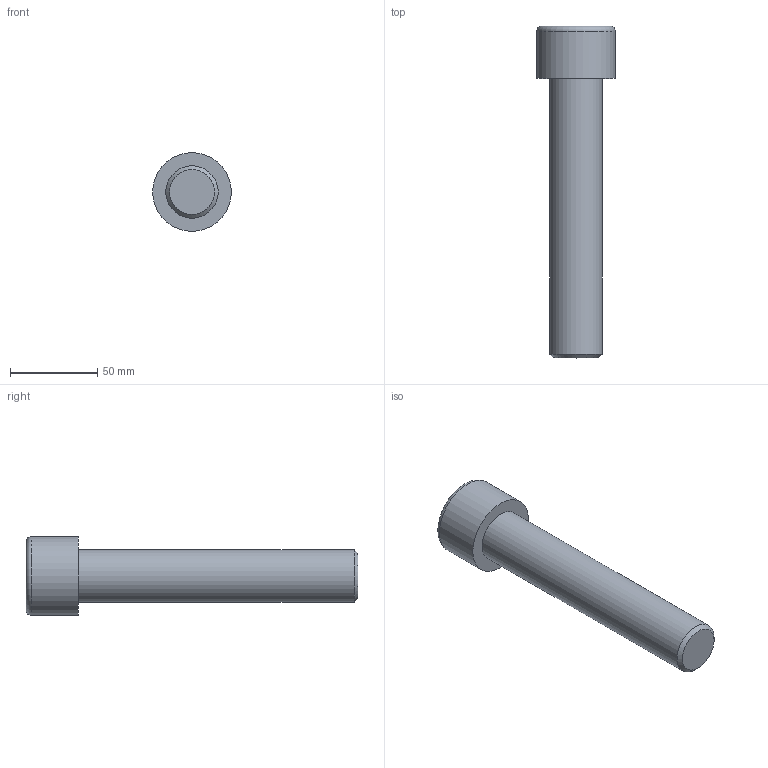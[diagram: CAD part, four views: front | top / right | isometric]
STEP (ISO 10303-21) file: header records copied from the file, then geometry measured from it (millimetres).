
FILE_DESCRIPTION(/* description */ (''),/* implementation_level */ '2;1');
FILE_NAME(/* name */ 'C:\Users\D\Documents\Inventor\各種小物\JIS\JIS B 1176 六角穴付きボルト\M30x160.stp',/* time_stamp */ '2022-05-09T19:01:46+09:00',/* author */ ('D'),/* organization */ (''),/* preprocessor_version */ 'ST-DEVELOPER v18',/* originating_system */ 'Autodesk Inventor 2020',/* authorisation */ '');
FILE_SCHEMA (('AUTOMOTIVE_DESIGN { 1 0 10303 214 3 1 1 }'));
Length unit declared in the file: millimetre
Products named in the file (1): M1.6x2.5
Bounding box: 45 x 190 x 45 mm (x, y, z)
Volume: 152636 mm3; surface area: 23486.2 mm2
Topology: 1 solids, 1 shells, 14 faces, 33 edges, 22 vertices
Faces by surface type: plane 9, cone 2, cylinder 2, torus 1
Full cylindrical faces by diameter (mm): 30 x1, 45 x1
Entity records: 435 total; most frequent: CARTESIAN_POINT 83, ORIENTED_EDGE 64, DIRECTION 64, EDGE_CURVE 32, AXIS2_PLACEMENT_3D 24, VERTEX_POINT 22, EDGE_LOOP 16, LINE 16
